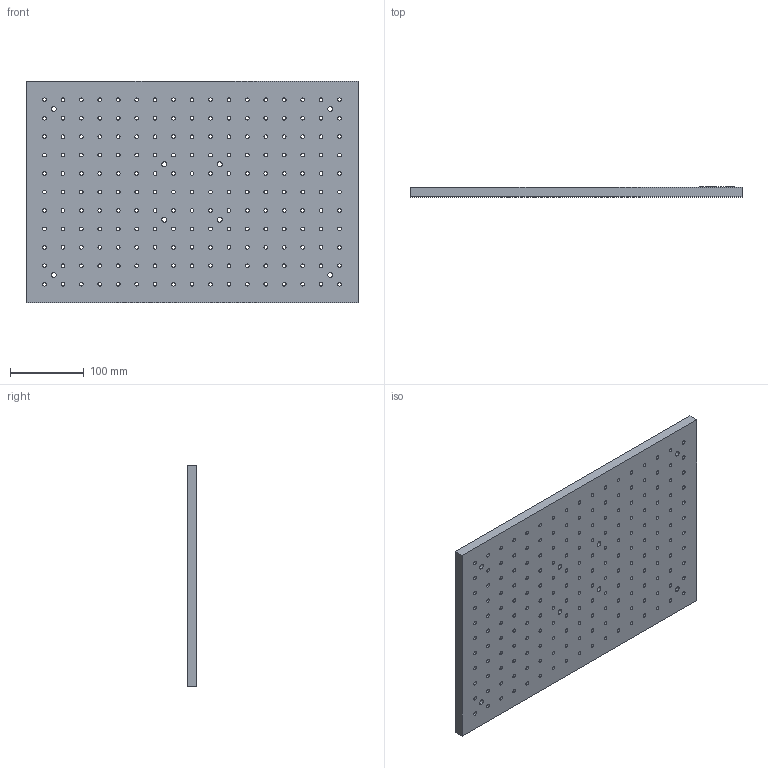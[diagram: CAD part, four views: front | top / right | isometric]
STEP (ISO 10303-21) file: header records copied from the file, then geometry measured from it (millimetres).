
FILE_DESCRIPTION (( 'STEP AP203' ), '1' );
FILE_NAME ('OTSB3045-13(AP203).STEP', '2022-02-28T09:05:59', ( '' ), ( '' ), 'SwSTEP 2.0', 'SolidWorks 2021', '' );
FILE_SCHEMA (( 'CONFIG_CONTROL_DESIGN' ));
Length unit declared in the file: millimetre
Products named in the file (1): OTSB3045-13(AP203)
Bounding box: 450 x 13.05 x 300 mm (x, y, z)
Volume: 1700113.8 mm3; surface area: 323352.7 mm2
Topology: 11 solids, 11 shells, 580 faces, 1650 edges, 1100 vertices
Faces by surface type: cylinder 406, plane 174
Entity records: 20103 total; most frequent: DIRECTION 3624, CARTESIAN_POINT 3331, ORIENTED_EDGE 3300, EDGE_CURVE 1650, AXIS2_PLACEMENT_3D 1393, VERTEX_POINT 1100, EDGE_LOOP 978, VECTOR 838
